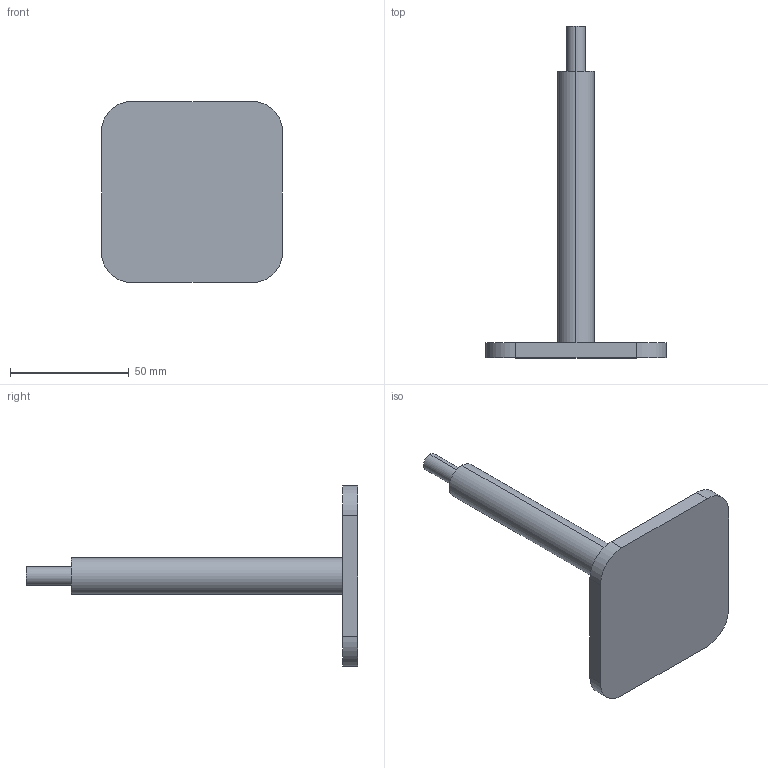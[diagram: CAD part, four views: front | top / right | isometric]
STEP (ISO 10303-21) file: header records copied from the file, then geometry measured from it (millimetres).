
FILE_DESCRIPTION (( 'STEP AP214' ), '1' );
FILE_NAME ('Bottom rivet tool.STEP', '2025-09-26T15:11:57', ( '' ), ( '' ), 'SwSTEP 2.0', 'SolidWorks 2023', '' );
FILE_SCHEMA (( 'AUTOMOTIVE_DESIGN' ));
Length unit declared in the file: inch
Products named in the file (1): Bottom rivet tool
Bounding box: 76.2 x 139.7 x 76.2 mm (x, y, z)
Volume: 57272.9 mm3; surface area: 19406 mm2
Topology: 1 solids, 1 shells, 19 faces, 42 edges, 28 vertices
Faces by surface type: cylinder 10, plane 9
Entity records: 563 total; most frequent: DIRECTION 102, CARTESIAN_POINT 90, ORIENTED_EDGE 84, EDGE_CURVE 42, AXIS2_PLACEMENT_3D 40, VERTEX_POINT 28, VECTOR 22, EDGE_LOOP 22
